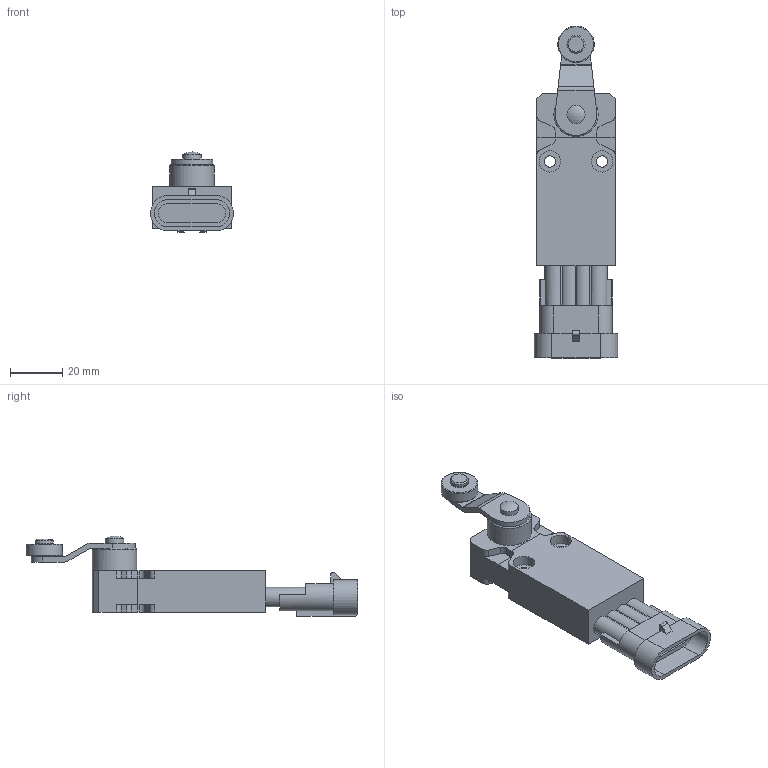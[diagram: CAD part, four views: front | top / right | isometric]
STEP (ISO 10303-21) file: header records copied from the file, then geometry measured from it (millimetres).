
FILE_DESCRIPTION(/* description */ (''),/* implementation_level */ '2;1');
FILE_NAME(/* name */ 'C:\Users\servizio.tecnico\Desktop\CADENAS\3D\EP1_STP\STP_EP1_G42A.stp',/* time_stamp */ '2017-09-04T10:06:25+02:00',/* author */ ('servizio.tecnico'),/* organization */ (''),/* preprocessor_version */ 'ST-DEVELOPER v16.1',/* originating_system */ 'Autodesk Inventor 2016',/* authorisation */ '');
FILE_SCHEMA (('AUTOMOTIVE_DESIGN { 1 0 10303 214 3 1 1 }'));
Length unit declared in the file: millimetre
Products named in the file (3): Product; EP1G42-A; BASE ASSI 
Assembly tree (2 placements, depth 3):
  BASE ASSI 
    EP1G42-A
      Product
Bounding box: 32 x 127.5 x 30.78 mm (x, y, z)
Volume: 39186 mm3; surface area: 15172.5 mm2
Topology: 4 solids, 4 shells, 174 faces, 450 edges, 298 vertices
Faces by surface type: plane 108, cylinder 61, torus 3, cone 1, sphere 1
Full cylindrical faces by diameter (mm): 4.4 x2, 5 x2, 7 x4, 8.2 x4, 14 x1, 17 x1
Entity records: 5368 total; most frequent: DIRECTION 916, CARTESIAN_POINT 899, ORIENTED_EDGE 854, EDGE_CURVE 427, AXIS2_PLACEMENT_3D 310, LINE 296, VECTOR 296, VERTEX_POINT 293
